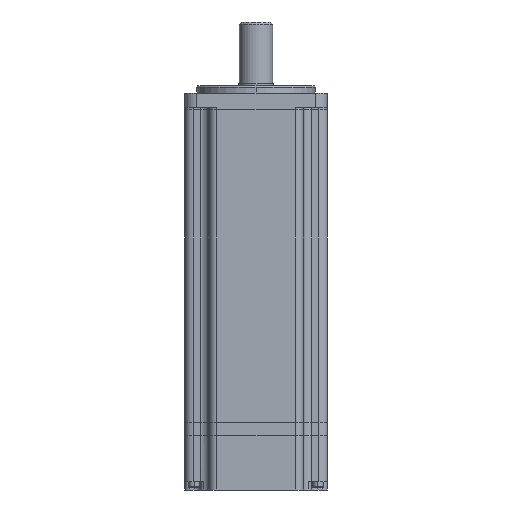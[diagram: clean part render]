
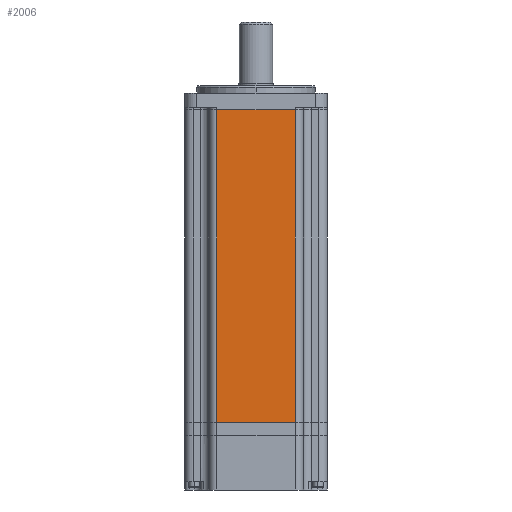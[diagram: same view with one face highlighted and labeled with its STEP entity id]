
A CAD part, left-side view. The second image highlights one B-rep face of the part: STEP entity #2006.
In plain terms, the highlighted planar face has unit normal (-1, 0, 0).
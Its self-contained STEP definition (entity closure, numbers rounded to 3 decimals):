
#704 = VECTOR ( 'NONE', #32826, 1000. ) ;
#1535 = VECTOR ( 'NONE', #38317, 1000. ) ;
#2006 = ADVANCED_FACE ( 'NONE', ( #36547 ), #20717, .F. ) ;
#3730 = EDGE_CURVE ( 'NONE', #21390, #21291, #5712, .T. ) ;
#4221 = CARTESIAN_POINT ( 'NONE',  ( -30., -20., -132. ) ) ;
#4487 = EDGE_CURVE ( 'NONE', #28678, #9596, #17139, .T. ) ;
#5712 = LINE ( 'NONE', #16711, #47908 ) ;
#6742 = ORIENTED_EDGE ( 'NONE', *, *, #22186, .F. ) ;
#7550 = EDGE_CURVE ( 'NONE', #21291, #28678, #13628, .T. ) ;
#9036 = CARTESIAN_POINT ( 'NONE',  ( -30., 16.5, 0. ) ) ;
#9596 = VERTEX_POINT ( 'NONE', #39820 ) ;
#9688 = CARTESIAN_POINT ( 'NONE',  ( -30., -20., 0. ) ) ;
#12642 = DIRECTION ( 'NONE',  ( 0., 0., 1. ) ) ;
#13628 = LINE ( 'NONE', #9688, #1535 ) ;
#15180 = CARTESIAN_POINT ( 'NONE',  ( -30., 16.5, -132. ) ) ;
#16711 = CARTESIAN_POINT ( 'NONE',  ( -30., -16.5, -132. ) ) ;
#17139 = LINE ( 'NONE', #15180, #27998 ) ;
#20717 = PLANE ( 'NONE',  #40298 ) ;
#21291 = VERTEX_POINT ( 'NONE', #37425 ) ;
#21390 = VERTEX_POINT ( 'NONE', #21682 ) ;
#21682 = CARTESIAN_POINT ( 'NONE',  ( -30., -16.5, -132. ) ) ;
#22186 = EDGE_CURVE ( 'NONE', #21390, #9596, #22424, .T. ) ;
#22424 = LINE ( 'NONE', #4221, #704 ) ;
#27814 = ORIENTED_EDGE ( 'NONE', *, *, #4487, .T. ) ;
#27998 = VECTOR ( 'NONE', #43805, 1000. ) ;
#28678 = VERTEX_POINT ( 'NONE', #9036 ) ;
#32826 = DIRECTION ( 'NONE',  ( 0., 1., 0. ) ) ;
#33076 = CARTESIAN_POINT ( 'NONE',  ( -30., -20., -132. ) ) ;
#36547 = FACE_OUTER_BOUND ( 'NONE', #40464, .T. ) ;
#37170 = DIRECTION ( 'NONE',  ( 1., 0., 0. ) ) ;
#37425 = CARTESIAN_POINT ( 'NONE',  ( -30., -16.5, 0. ) ) ;
#38081 = ORIENTED_EDGE ( 'NONE', *, *, #7550, .T. ) ;
#38317 = DIRECTION ( 'NONE',  ( 0., 1., 0. ) ) ;
#39820 = CARTESIAN_POINT ( 'NONE',  ( -30., 16.5, -132. ) ) ;
#40298 = AXIS2_PLACEMENT_3D ( 'NONE', #33076, #37170, #12642 ) ;
#40464 = EDGE_LOOP ( 'NONE', ( #6742, #44844, #38081, #27814 ) ) ;
#43805 = DIRECTION ( 'NONE',  ( 0., 0., -1. ) ) ;
#44844 = ORIENTED_EDGE ( 'NONE', *, *, #3730, .T. ) ;
#45313 = DIRECTION ( 'NONE',  ( 0., 0., 1. ) ) ;
#47908 = VECTOR ( 'NONE', #45313, 1000. ) ;
